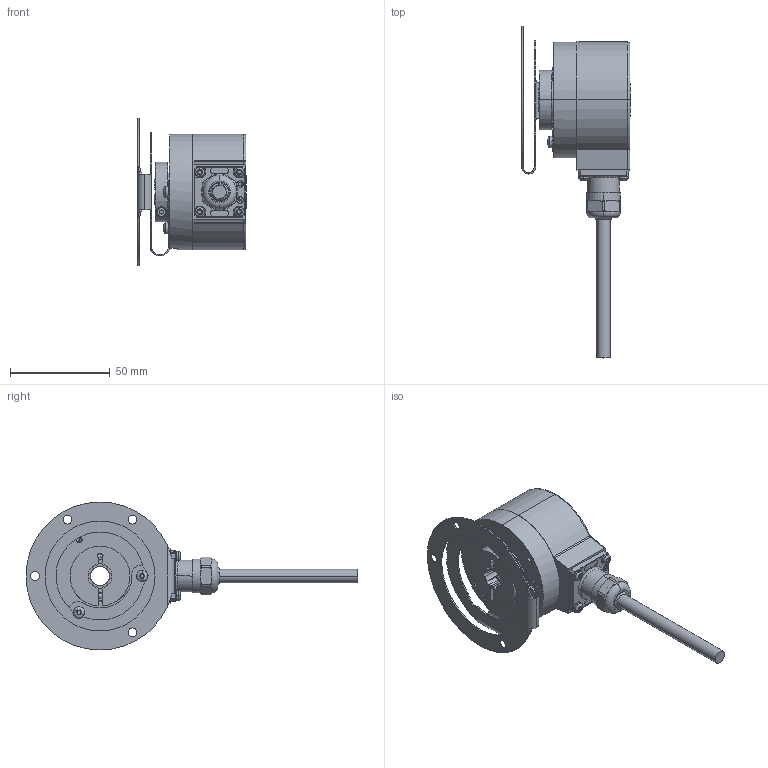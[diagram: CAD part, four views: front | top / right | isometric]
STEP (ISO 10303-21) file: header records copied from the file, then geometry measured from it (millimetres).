
FILE_DESCRIPTION (( 'STEP AP203' ), '1' );
FILE_NAME ('K58I.OXX.XXXXX.XH1352A.6XR31.XXXX.step', '2025-12-08T13:26:37', ( '' ), ( '' ), 'SwSTEP 2.0', 'SolidWorks 2021', '' );
FILE_SCHEMA (( 'CONFIG_CONTROL_DESIGN' ));
Length unit declared in the file: millimetre
Products named in the file (1): K58I.OXX.XXXXX.XH1352A.6XR31.XXXX
Bounding box: 54.39 x 166 x 74 mm (x, y, z)
Volume: 118030.1 mm3; surface area: 45184.2 mm2
Topology: 10 solids, 10 shells, 749 faces, 1932 edges, 1222 vertices
Faces by surface type: cylinder 380, plane 198, cone 71, bspline 44, torus 40, sphere 16
Entity records: 25530 total; most frequent: CARTESIAN_POINT 7138, DIRECTION 3959, ORIENTED_EDGE 3836, EDGE_CURVE 1918, AXIS2_PLACEMENT_3D 1571, VERTEX_POINT 1222, CIRCLE 865, LINE 817
